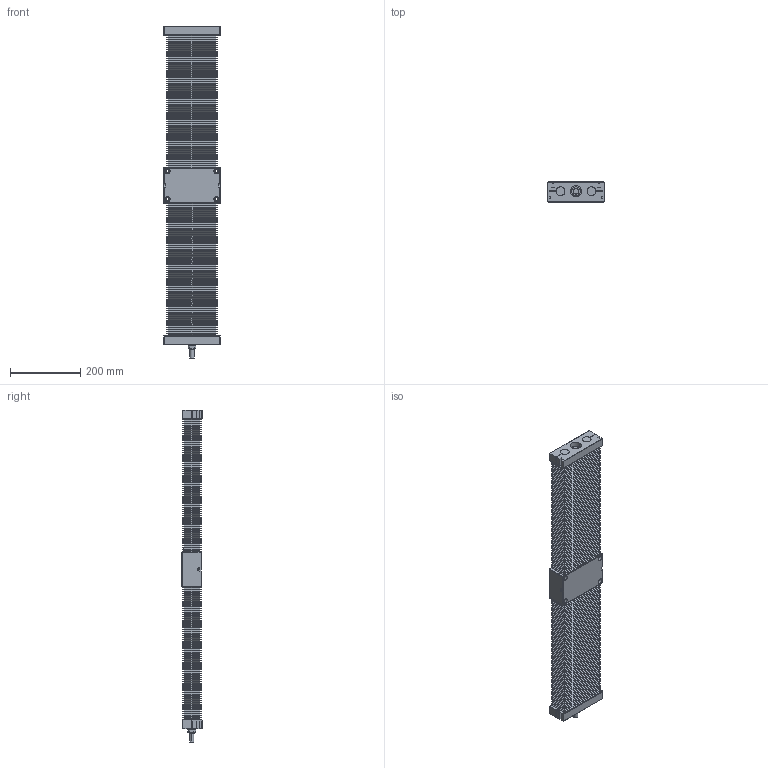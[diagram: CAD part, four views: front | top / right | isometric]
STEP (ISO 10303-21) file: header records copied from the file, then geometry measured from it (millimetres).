
FILE_DESCRIPTION (( 'STEP AP214' ), '1' );
FILE_NAME ('TKC2510B-500H0C-Ä£×é.step', '2025-10-11T05:41:27', ( '' ), ( '' ), 'SwSTEP 2.0', 'SolidWorks 2024', '' );
FILE_SCHEMA (( 'AUTOMOTIVE_DESIGN' ));
Length unit declared in the file: millimetre
Products named in the file (4): TKC25-500-03; TKC2510B-500H0C-模组; TKC25-02; TKC25-500-01
Assembly tree (4 placements, depth 2):
  TKC2510B-500H0C-模组
    TKC25-02
    TKC25-500-01
    TKC25-500-03  x2
Bounding box: 160 x 58 x 948 mm (x, y, z)
Volume: 5039602.9 mm3; surface area: 1249429.3 mm2
Topology: 14 solids, 14 shells, 2387 faces, 5243 edges, 2930 vertices
Faces by surface type: plane 1832, cylinder 472, cone 44, torus 28, bspline 11
Entity records: 72546 total; most frequent: CARTESIAN_POINT 37509, ORIENTED_EDGE 7246, DIRECTION 6825, EDGE_CURVE 3623, LINE 2593, VECTOR 2593, VERTEX_POINT 2126, AXIS2_PLACEMENT_3D 2116
